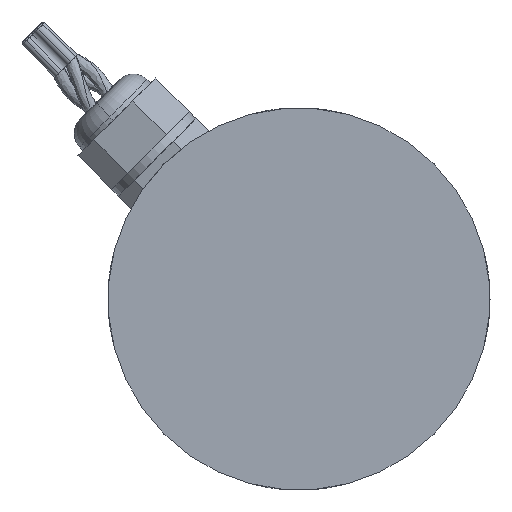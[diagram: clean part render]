
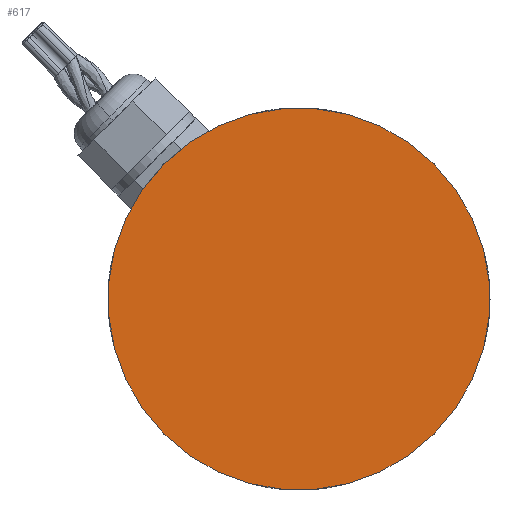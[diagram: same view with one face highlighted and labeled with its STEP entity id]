
A CAD part, left-side view. The second image highlights one B-rep face of the part: STEP entity #617.
In plain terms, the highlighted planar face has unit normal (-1, 0, 0).
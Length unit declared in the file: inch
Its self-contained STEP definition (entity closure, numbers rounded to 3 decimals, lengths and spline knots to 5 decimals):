
#617 = ADVANCED_FACE ( 'NONE', ( #10933 ), #9358, .F. ) ;
#936 = ORIENTED_EDGE ( 'NONE', *, *, #10723, .F. ) ;
#1052 = AXIS2_PLACEMENT_3D ( 'NONE', #2142, #11375, #10483 ) ;
#1150 = DIRECTION ( 'NONE',  ( 1., 0., 0. ) ) ;
#1895 = AXIS2_PLACEMENT_3D ( 'NONE', #3754, #9455, #2467 ) ;
#2142 = CARTESIAN_POINT ( 'NONE',  ( -2.25027, 4.71916, 8.04765 ) ) ;
#2467 = DIRECTION ( 'NONE',  ( 0., -0.707, 0.707 ) ) ;
#3545 = DIRECTION ( 'NONE',  ( 0., -0.707, 0.707 ) ) ;
#3754 = CARTESIAN_POINT ( 'NONE',  ( -2.25027, 4.71916, 8.04765 ) ) ;
#4435 = ORIENTED_EDGE ( 'NONE', *, *, #5900, .F. ) ;
#5900 = EDGE_CURVE ( 'NONE', #9658, #12929, #7603, .T. ) ;
#7603 = CIRCLE ( 'NONE', #12302, 2. ) ;
#9358 = PLANE ( 'NONE',  #1895 ) ;
#9455 = DIRECTION ( 'NONE',  ( 1., 0., 0. ) ) ;
#9658 = VERTEX_POINT ( 'NONE', #12248 ) ;
#10265 = CARTESIAN_POINT ( 'NONE',  ( -2.25027, 6.13337, 6.63344 ) ) ;
#10483 = DIRECTION ( 'NONE',  ( 0., -0.707, 0.707 ) ) ;
#10563 = CARTESIAN_POINT ( 'NONE',  ( -2.25027, 4.71916, 8.04765 ) ) ;
#10723 = EDGE_CURVE ( 'NONE', #12929, #9658, #12764, .T. ) ;
#10933 = FACE_OUTER_BOUND ( 'NONE', #14666, .T. ) ;
#11375 = DIRECTION ( 'NONE',  ( 1., 0., 0. ) ) ;
#12248 = CARTESIAN_POINT ( 'NONE',  ( -2.25027, 3.30494, 9.46186 ) ) ;
#12302 = AXIS2_PLACEMENT_3D ( 'NONE', #10563, #1150, #3545 ) ;
#12764 = CIRCLE ( 'NONE', #1052, 2. ) ;
#12929 = VERTEX_POINT ( 'NONE', #10265 ) ;
#14666 = EDGE_LOOP ( 'NONE', ( #936, #4435 ) ) ;
